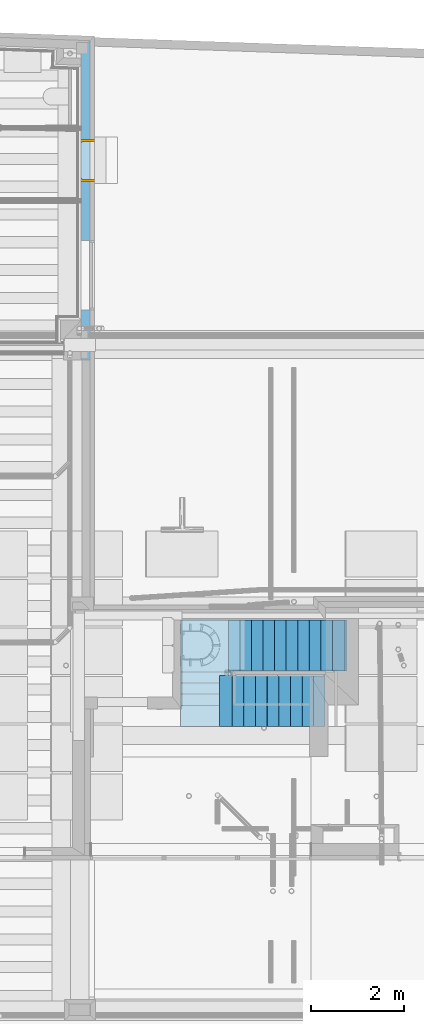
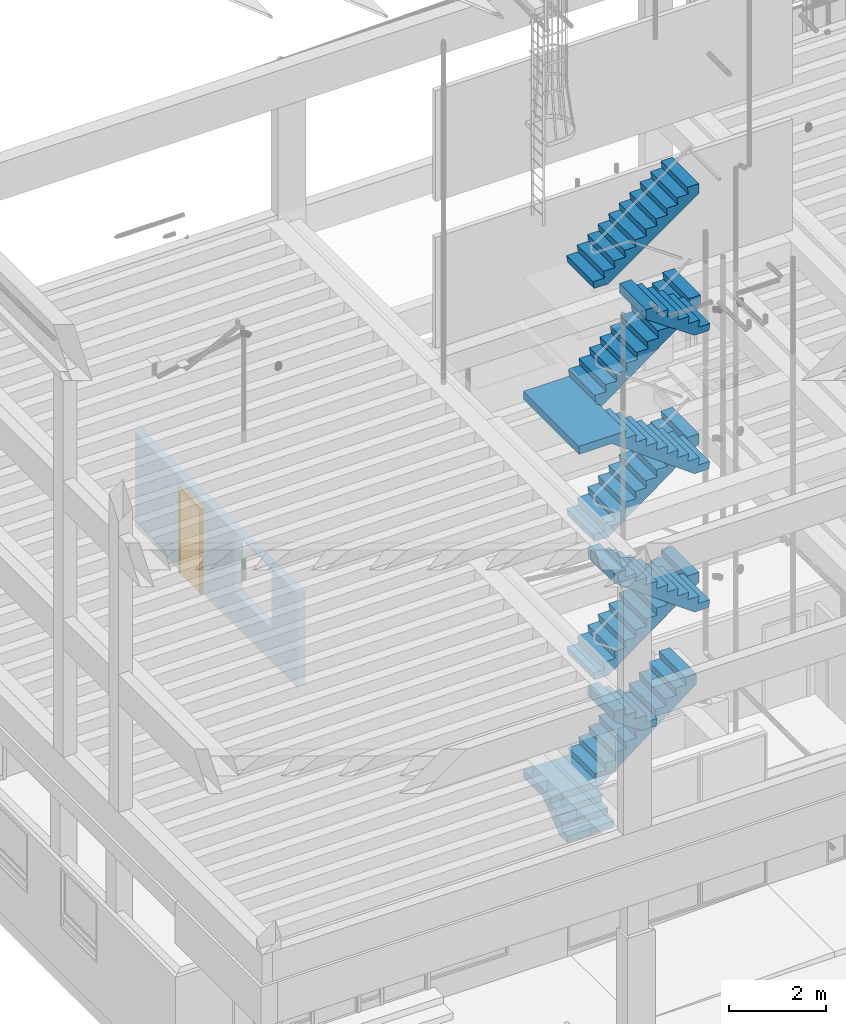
# One storey, part 25 of 106: 8 stairs, 1 door, 2 openings, plus 1 element that does not belong to this part.
"""IFC2X3 building model written with IfcOpenShell, lengths in metres."""

from ifc_helpers import new_model, entity, si_unit, converted_unit, derived_unit, money_unit, direction, frame, frame_2d, origin_with_axes, place, context, subcontext, project, spatial, polyline, rectangle, outline, extrude, faceted_brep, material, layer, layer_set, layer_usage, type_object, element, fill, save


model = new_model("IFC2X3")

# Units and contexts
model_context = context("Model", 3, precision=1e-05, world=origin_with_axes(), true_north=direction((0.0, 1.0)))
body_context = subcontext(model_context, "Body", "Model", "MODEL_VIEW", scale=1.0)
ifc_project = project(units=[si_unit("LENGTHUNIT", "METRE"), si_unit("AREAUNIT", "SQUARE_METRE"), si_unit("VOLUMEUNIT", "CUBIC_METRE"), si_unit("ABSORBEDDOSEUNIT", "GRAY"), si_unit("AMOUNTOFSUBSTANCEUNIT", "MOLE"), si_unit("DOSEEQUIVALENTUNIT", "SIEVERT"), si_unit("ELECTRICCAPACITANCEUNIT", "FARAD"), si_unit("ELECTRICCHARGEUNIT", "COULOMB"), si_unit("ELECTRICCONDUCTANCEUNIT", "SIEMENS"), si_unit("ELECTRICCURRENTUNIT", "AMPERE"), si_unit("ELECTRICRESISTANCEUNIT", "OHM"), si_unit("ELECTRICVOLTAGEUNIT", "VOLT"), si_unit("ENERGYUNIT", "JOULE"), si_unit("FORCEUNIT", "NEWTON"), si_unit("FREQUENCYUNIT", "HERTZ"), si_unit("ILLUMINANCEUNIT", "LUX"), si_unit("INDUCTANCEUNIT", "HENRY"), si_unit("LUMINOUSFLUXUNIT", "LUMEN"), si_unit("LUMINOUSINTENSITYUNIT", "CANDELA"), si_unit("MAGNETICFLUXDENSITYUNIT", "TESLA"), si_unit("MAGNETICFLUXUNIT", "WEBER"), si_unit("MASSUNIT", "GRAM"), converted_unit("PLANEANGLEUNIT", "degree", entity("IfcReal", 0.0174532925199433), si_unit("PLANEANGLEUNIT", "RADIAN"), dimensions=[0, 0, 0, 0, 0, 0, 0]), si_unit("POWERUNIT", "WATT"), si_unit("PRESSUREUNIT", "PASCAL"), si_unit("RADIOACTIVITYUNIT", "BECQUEREL"), si_unit("SOLIDANGLEUNIT", "STERADIAN"), si_unit("THERMODYNAMICTEMPERATUREUNIT", "KELVIN"), si_unit("TIMEUNIT", "SECOND"), derived_unit("ACCELERATIONUNIT", [(si_unit("LENGTHUNIT", "METRE"), 1), (si_unit("TIMEUNIT", "SECOND"), -2)]), derived_unit("ANGULARVELOCITYUNIT", [(converted_unit("PLANEANGLEUNIT", "degree", entity("IfcReal", 0.0174532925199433), si_unit("PLANEANGLEUNIT", "RADIAN"), dimensions=[0, 0, 0, 0, 0, 0, 0]), 1), (si_unit("TIMEUNIT", "SECOND"), -1)]), derived_unit("CURVATUREUNIT", [(converted_unit("PLANEANGLEUNIT", "degree", entity("IfcReal", 0.0174532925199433), si_unit("PLANEANGLEUNIT", "RADIAN"), dimensions=[0, 0, 0, 0, 0, 0, 0]), 1), (si_unit("LENGTHUNIT", "METRE"), -1)]), derived_unit("DYNAMICVISCOSITYUNIT", [(si_unit("PRESSUREUNIT", "PASCAL"), 1), (si_unit("TIMEUNIT", "SECOND"), 1)]), derived_unit("HEATFLUXDENSITYUNIT", [(si_unit("POWERUNIT", "WATT"), 1), (si_unit("LENGTHUNIT", "METRE"), -2)]), derived_unit("HEATINGVALUEUNIT", [(si_unit("ENERGYUNIT", "JOULE"), 1), (si_unit("MASSUNIT", "GRAM"), -1)]), derived_unit("INTEGERCOUNTRATEUNIT", [(si_unit("TIMEUNIT", "SECOND"), -1)]), derived_unit("IONCONCENTRATIONUNIT", [(si_unit("MASSUNIT", "GRAM"), 1), (si_unit("VOLUMEUNIT", "CUBIC_METRE"), -1)]), derived_unit("ISOTHERMALMOISTURECAPACITYUNIT", [(si_unit("VOLUMEUNIT", "CUBIC_METRE"), 1), (si_unit("MASSUNIT", "GRAM"), -1)]), derived_unit("KINEMATICVISCOSITYUNIT", [(si_unit("AREAUNIT", "SQUARE_METRE"), 1), (si_unit("TIMEUNIT", "SECOND"), -1)]), derived_unit("LINEARFORCEUNIT", [(si_unit("FORCEUNIT", "NEWTON"), 1), (si_unit("LENGTHUNIT", "METRE"), -1)]), derived_unit("LINEARMOMENTUNIT", [(si_unit("FORCEUNIT", "NEWTON"), 1), (si_unit("LENGTHUNIT", "METRE"), -1)]), derived_unit("LINEARSTIFFNESSUNIT", [(si_unit("FORCEUNIT", "NEWTON"), 1), (si_unit("LENGTHUNIT", "METRE"), -1)]), derived_unit("LINEARVELOCITYUNIT", [(si_unit("LENGTHUNIT", "METRE"), 1), (si_unit("TIMEUNIT", "SECOND"), -1)]), derived_unit("LUMINOUSINTENSITYDISTRIBUTIONUNIT", [(si_unit("LUMINOUSINTENSITYUNIT", "CANDELA"), 1), (si_unit("LUMINOUSFLUXUNIT", "LUMEN"), -1)]), derived_unit("MASSDENSITYUNIT", [(si_unit("MASSUNIT", "GRAM"), 1), (si_unit("VOLUMEUNIT", "CUBIC_METRE"), -1)]), derived_unit("MASSFLOWRATEUNIT", [(si_unit("MASSUNIT", "GRAM"), 1), (si_unit("TIMEUNIT", "SECOND"), -1)]), derived_unit("MASSPERLENGTHUNIT", [(si_unit("MASSUNIT", "GRAM"), 1), (si_unit("LENGTHUNIT", "METRE"), -1)]), derived_unit("MODULUSOFELASTICITYUNIT", [(si_unit("FORCEUNIT", "NEWTON"), 1), (si_unit("AREAUNIT", "SQUARE_METRE"), -1)]), derived_unit("MODULUSOFLINEARSUBGRADEREACTIONUNIT", [(si_unit("FORCEUNIT", "NEWTON"), 1), (si_unit("LENGTHUNIT", "METRE"), -2)]), derived_unit("MODULUSOFROTATIONALSUBGRADEREACTIONUNIT", [(si_unit("FORCEUNIT", "NEWTON"), 1), (si_unit("LENGTHUNIT", "METRE"), 1)]), derived_unit("MODULUSOFSUBGRADEREACTIONUNIT", [(si_unit("FORCEUNIT", "NEWTON"), 1), (si_unit("VOLUMEUNIT", "CUBIC_METRE"), -1)]), derived_unit("MOISTUREDIFFUSIVITYUNIT", [(si_unit("VOLUMEUNIT", "CUBIC_METRE"), 1), (si_unit("TIMEUNIT", "SECOND"), -1)]), derived_unit("MOLECULARWEIGHTUNIT", [(si_unit("MASSUNIT", "GRAM"), 1), (si_unit("AMOUNTOFSUBSTANCEUNIT", "MOLE"), -1)]), derived_unit("PLANARFORCEUNIT", [(si_unit("FORCEUNIT", "NEWTON"), 1), (si_unit("LENGTHUNIT", "METRE"), -2)]), derived_unit("ROTATIONALFREQUENCYUNIT", [(si_unit("TIMEUNIT", "SECOND"), -1)]), derived_unit("ROTATIONALMASSUNIT", [(si_unit("MASSUNIT", "GRAM"), 1), (si_unit("LENGTHUNIT", "METRE"), 2)]), derived_unit("ROTATIONALSTIFFNESSUNIT", [(si_unit("FORCEUNIT", "NEWTON"), 1), (si_unit("LENGTHUNIT", "METRE"), 1), (converted_unit("PLANEANGLEUNIT", "degree", entity("IfcReal", 0.0174532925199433), si_unit("PLANEANGLEUNIT", "RADIAN"), dimensions=[0, 0, 0, 0, 0, 0, 0]), -1)]), derived_unit("SECTIONAREAINTEGRALUNIT", [(si_unit("LENGTHUNIT", "METRE"), 5)]), derived_unit("SECTIONMODULUSUNIT", [(si_unit("LENGTHUNIT", "METRE"), 3)]), derived_unit("SHEARMODULUSUNIT", [(si_unit("FORCEUNIT", "NEWTON"), 1), (si_unit("AREAUNIT", "SQUARE_METRE"), -1)]), derived_unit("SOUNDPOWERUNIT", [(si_unit("ENERGYUNIT", "JOULE"), 1), (si_unit("TIMEUNIT", "SECOND"), -1)]), derived_unit("SPECIFICHEATCAPACITYUNIT", [(si_unit("FORCEUNIT", "NEWTON"), 1), (si_unit("MASSUNIT", "GRAM"), -1), (si_unit("THERMODYNAMICTEMPERATUREUNIT", "KELVIN"), -1)]), derived_unit("TEMPERATUREGRADIENTUNIT", [(si_unit("THERMODYNAMICTEMPERATUREUNIT", "KELVIN"), 1), (si_unit("LENGTHUNIT", "METRE"), -1)]), derived_unit("THERMALADMITTANCEUNIT", [(si_unit("POWERUNIT", "WATT"), 1), (si_unit("AREAUNIT", "SQUARE_METRE"), -1), (si_unit("THERMODYNAMICTEMPERATUREUNIT", "KELVIN"), -1)]), derived_unit("THERMALCONDUCTANCEUNIT", [(si_unit("POWERUNIT", "WATT"), 1), (si_unit("LENGTHUNIT", "METRE"), -1), (si_unit("THERMODYNAMICTEMPERATUREUNIT", "KELVIN"), -1)]), derived_unit("THERMALEXPANSIONCOEFFICIENTUNIT", [(si_unit("THERMODYNAMICTEMPERATUREUNIT", "KELVIN"), -1)]), derived_unit("THERMALRESISTANCEUNIT", [(si_unit("AREAUNIT", "SQUARE_METRE"), 1), (si_unit("POWERUNIT", "WATT"), -1)]), derived_unit("THERMALTRANSMITTANCEUNIT", [(si_unit("POWERUNIT", "WATT"), 1), (si_unit("AREAUNIT", "SQUARE_METRE"), -1), (si_unit("THERMODYNAMICTEMPERATUREUNIT", "KELVIN"), -1)]), derived_unit("TORQUEUNIT", [(si_unit("FORCEUNIT", "NEWTON"), 1), (si_unit("LENGTHUNIT", "METRE"), 1)]), derived_unit("VAPORPERMEABILITYUNIT", [(si_unit("MASSUNIT", "GRAM"), 1), (si_unit("TIMEUNIT", "SECOND"), -1)]), derived_unit("VOLUMETRICFLOWRATEUNIT", [(si_unit("VOLUMEUNIT", "CUBIC_METRE"), 1), (si_unit("TIMEUNIT", "SECOND"), -1)]), derived_unit("WARPINGCONSTANTUNIT", [(si_unit("LENGTHUNIT", "METRE"), 6)]), derived_unit("WARPINGMOMENTUNIT", [(si_unit("FORCEUNIT", "NEWTON"), 1), (si_unit("LENGTHUNIT", "METRE"), 2)]), money_unit("GBP")], contexts=[model_context])

# Site, building, storey
site_placement = place(None, origin_with_axes())
site = spatial("IfcSite", under=ifc_project, at=site_placement, Name="Site", CompositionType="ELEMENT")
building_placement = place(site_placement, origin_with_axes())
building = spatial("IfcBuilding", under=site, at=building_placement, Name="Building01", CompositionType="ELEMENT")
storey_placement = place(building_placement, origin_with_axes())
storey = spatial("IfcBuildingStorey", under=building, at=storey_placement, Name="GF", CompositionType="ELEMENT", Elevation=0.0)

# Wall, openings
ifc_material_1 = material(Name="A_BSUK_WallsExternal_Block")
ifc_layer = layer(ifc_material_1, 0.189, ventilated=False)
ifc_layer_set = layer_set([ifc_layer])
ifc_layer_usage = layer_usage(ifc_layer_set, "AXIS2", "POSITIVE", 0.0)
wall_type = type_object("IfcWallType", Name="A-Walls-ExternalBlock", PredefinedType="NOTDEFINED")
wall_placement = place(storey_placement, frame((9.343265, 14.271539, 0.148), z_axis=(0.0, 0.0, 1.0), x_axis=(0.0, 1.0, 0.0)))
wall = element("IfcWallStandardCase", 1, at=wall_placement, inside=storey, type_object=wall_type, material=ifc_layer_usage, Name="A-Walls-ExternalBlock", ObjectType="A-Walls-ExternalBlock", context=body_context, shape_type="SweptSolid", body=[
    extrude(outline(polyline([(6.714401, 0.189), (0.0, 0.189), (0.0, 0.0), (6.894519, 0.0), (6.714401, 0.189)])), origin_with_axes(), (0.0, 0.0, 1.0), 2.387),
])
opening_1_placement = place(wall_placement, frame((1.073273, 0.0, 0.85), z_axis=(0.0, 0.0, 1.0), x_axis=(1.0, 0.0, 0.0)))
element("IfcOpeningElement", 2, at=opening_1_placement, cuts=wall, Name="Opening", ObjectType="Opening", context=body_context, shape_type="SweptSolid", body=[
    extrude(rectangle(XDim=1.5, YDim=1.5, at=frame_2d((-0.75, 0.75), x_axis=(1.0, 0.0))), frame((0.0, 0.0, 0.0), z_axis=(0.0, 1.0, 0.0), x_axis=(-1.0, 0.0, 0.0)), (0.0, 0.0, 1.0), 0.189),
])
opening_2_placement = place(wall_placement, frame((3.852568, 0.0, 0.05), z_axis=(0.0, 0.0, 1.0), x_axis=(1.0, 0.0, 0.0)))
opening_2 = element("IfcOpeningElement", 3, at=opening_2_placement, cuts=wall, Name="Opening", ObjectType="Opening", context=body_context, shape_type="SweptSolid", body=[
    extrude(rectangle(XDim=2.142, YDim=0.909, at=frame_2d((-0.4545, 1.071), x_axis=(0.0, -1.0))), frame((0.0, 0.0, 0.0), z_axis=(0.0, 1.0, 0.0), x_axis=(-1.0, 0.0, 0.0)), (0.0, 0.0, 1.0), 0.189),
])

# Space
space_placement = place(storey_placement, frame((8.552822, 20.936203, 0.217025), z_axis=(0.0, 0.0, 1.0), x_axis=(-0.99931258, 0.03707243, 0.0)))
space = spatial("IfcSpace", under=storey, at=space_placement, Name="01", CompositionType="ELEMENT", InteriorOrExteriorSpace="NOTDEFINED")

# Door
ifc_material_2 = material(Name="A_BSUK_Doors")
door_style = type_object("IfcDoorStyle", Name="A-Doors-SingleFlush", ConstructionType="USERDEFINED", OperationType="SINGLE_SWING_LEFT", ParameterTakesPrecedence=False, Sizeable=False)
door_placement = place(opening_2_placement, frame((0.042, 0.259849, 0.0), z_axis=(0.0, 0.0, 1.0), x_axis=(1.0, 0.0, 0.0)))
door = element("IfcDoor", 4, at=door_placement, inside=space, type_object=door_style, material=ifc_material_2, Name="0.08", ObjectType="A-Doors-SingleFlush", OverallHeight=2.142, OverallWidth=0.909, context=body_context, shape_type="Brep", body=[
    faceted_brep([(0.0, -0.379, 2.1), (0.825, -0.379, 2.1), (0.825, -0.379, 0.0), (0.894, -0.379, 0.0), (0.894, -0.379, 2.169), (-0.069, -0.379, 2.169), (-0.069, -0.379, 0.0), (0.0, -0.379, 0.0), (0.894, -0.36, 2.169), (0.894, -0.36, 0.0), (-0.069, -0.36, 0.0), (-0.069, -0.36, 2.169), (-0.042, -0.36, 0.0), (-0.042, 0.0, 0.0), (-0.069, 0.0, 0.0), (-0.069, 0.019, 0.0), (0.0, 0.019, 0.0), (0.0, 0.019, 2.1), (0.825, 0.019, 2.1), (-0.069, 0.019, 2.169), (0.894, 0.019, 2.169), (0.894, 0.019, 0.0), (0.825, 0.019, 0.0), (-0.069, 0.0, 2.169), (-0.042, 0.0, 2.142), (-0.042, -0.36, 2.142), (0.867, 0.0, 2.142), (0.867, -0.36, 2.142), (0.867, -0.36, 0.0), (0.867, 0.0, 0.0), (0.894, 0.0, 0.0), (0.894, 0.0, 2.169)], [[[0, 1, 2, 3, 4, 5, 6, 7]], [[8, 4, 3, 9]], [[10, 6, 5, 11]], [[11, 5, 4, 8]], [[7, 6, 10, 12, 13, 14, 15, 16]], [[7, 16, 17, 0]], [[0, 17, 18, 1]], [[17, 16, 15, 19, 20, 21, 22, 18]], [[1, 18, 22, 2]], [[14, 23, 19, 15]], [[24, 13, 12, 25]], [[26, 24, 25, 27]], [[11, 8, 9, 28, 27, 25, 12, 10]], [[27, 28, 29, 26]], [[26, 29, 30, 31, 23, 14, 13, 24]], [[22, 21, 30, 29, 28, 9, 3, 2]], [[30, 21, 20, 31]], [[31, 20, 19, 23]]]),
    faceted_brep([(0.825, -0.09, 0.0), (0.825, -0.04, 0.0), (0.825, -0.04, 2.1), (0.825, -0.09, 2.1), (0.025, -0.09, 2.075), (0.8, -0.09, 2.075), (0.8, -0.09, 0.0), (0.0, -0.09, 2.1), (0.0, -0.09, 0.0), (0.025, -0.09, 0.0), (0.0, -0.04, 0.0), (0.025, -0.04, 0.0), (0.0, -0.04, 2.1), (0.025, -0.04, 2.075), (0.8, -0.04, 0.0), (0.8, -0.04, 2.075)], [[[0, 1, 2, 3]], [[4, 5, 6, 0, 3, 7, 8, 9]], [[9, 8, 10, 11]], [[3, 2, 12, 7]], [[7, 12, 10, 8]], [[13, 11, 10, 12, 2, 1, 14, 15]], [[5, 15, 14, 6]], [[14, 1, 0, 6]], [[9, 11, 13, 4]], [[4, 13, 15, 5]]]),
    faceted_brep([(0.0, -0.04, 2.1), (0.0, 0.0, 2.1), (0.0, 0.0, 0.0), (0.0, -0.04, 0.0), (0.825, -0.04, 0.0), (0.825, 0.0, 0.0), (0.825, 0.0, 2.1), (0.825, -0.04, 2.1)], [[[0, 1, 2, 3]], [[4, 5, 6, 7]], [[3, 2, 5, 4]], [[3, 4, 7, 0]], [[7, 6, 1, 0]], [[1, 6, 5, 2]]]),
])

fill(opening_2, door)

# Stairs
ifc_material_3 = material(Name="S_BSUK_Stairs")
stair_1_placement = place(storey_placement, frame((14.405859, 6.35, 12.13), z_axis=(0.0, 0.0, 1.0), x_axis=(1.0, 0.0, 0.0)))
element("IfcStair", 5, at=stair_1_placement, inside=storey, material=ifc_material_3, Name="S-Stairs-ConcreteRC", ObjectType="S-Stairs-ConcreteRC", ShapeType="NOTDEFINED", context=body_context, shape_type="Brep", body=[
    faceted_brep([(0.0, 1.1, 0.0), (-0.348759, 1.1, 0.0), (-1.5, 1.1, 0.805869), (-1.5, 1.1, 1.05), (-1.225, 1.1, 1.05), (-1.25, 1.1, 0.875), (-0.975, 1.1, 0.875), (-1.0, 1.1, 0.7), (-0.725, 1.1, 0.7), (-0.75, 1.1, 0.525), (-0.475, 1.1, 0.525), (-0.5, 1.1, 0.35), (-0.225, 1.1, 0.35), (-0.25, 1.1, 0.175), (0.025, 1.1, 0.175), (0.0, 0.0, 0.0), (-0.348759, 0.0, 0.0), (-1.5, 0.0, 0.805869), (-1.5, 0.0, 1.05), (-1.225, 0.0, 1.05), (-1.25, 0.0, 0.875), (-0.975, 0.0, 0.875), (-1.0, 0.0, 0.7), (-0.725, 0.0, 0.7), (-0.75, 0.0, 0.525), (-0.475, 0.0, 0.525), (-0.5, 0.0, 0.35), (-0.225, 0.0, 0.35), (-0.25, 0.0, 0.175), (0.025, 0.0, 0.175)], [[[0, 1, 2, 3, 4, 5, 6, 7, 8, 9, 10, 11, 12, 13, 14]], [[15, 16, 1, 0]], [[16, 17, 2, 1]], [[17, 18, 3, 2]], [[18, 19, 4, 3]], [[19, 20, 5, 4]], [[20, 21, 6, 5]], [[21, 22, 7, 6]], [[22, 23, 8, 7]], [[23, 24, 9, 8]], [[24, 25, 10, 9]], [[25, 26, 11, 10]], [[26, 27, 12, 11]], [[27, 28, 13, 12]], [[28, 29, 14, 13]], [[29, 15, 0, 14]], [[15, 29, 28, 27, 26, 25, 24, 23, 22, 21, 20, 19, 18, 17, 16]]]),
])
stair_2_placement = place(storey_placement, frame((11.3, 6.83, 0.0), z_axis=(0.0, 0.0, 1.0), x_axis=(1.0, 0.0, 0.0)))
element("IfcStair", 6, at=stair_2_placement, inside=storey, material=ifc_material_3, Name="S-Stairs-ConcreteRC", ObjectType="S-Stairs-ConcreteRC", ShapeType="NOTDEFINED", context=body_context, shape_type="Brep", body=[
    faceted_brep([(1.1, 0.0, 0.0), (1.1, 0.326806, 0.0), (1.1, 1.028345, 0.542857), (1.1, 0.72, 0.542857), (1.1, 0.72, 0.742857), (1.1, 0.695, 0.742857), (1.1, 0.72, 0.557143), (1.1, 0.455, 0.557143), (1.1, 0.48, 0.371429), (1.1, 0.215, 0.371429), (1.1, 0.24, 0.185714), (1.1, -0.025, 0.185714), (0.0, 0.0, 0.0), (0.0, 0.326806, 0.0), (0.0, 1.028345, 0.542857), (0.0, 0.72, 0.542857), (0.0, 0.72, 0.742857), (0.0, 0.695, 0.742857), (0.0, 0.72, 0.557143), (0.0, 0.455, 0.557143), (0.0, 0.48, 0.371429), (0.0, 0.215, 0.371429), (0.0, 0.24, 0.185714), (0.0, -0.025, 0.185714)], [[[0, 1, 2, 3, 4, 5, 6, 7, 8, 9, 10, 11]], [[12, 13, 1, 0]], [[13, 14, 2, 1]], [[14, 15, 3, 2]], [[15, 16, 4, 3]], [[16, 17, 5, 4]], [[17, 18, 6, 5]], [[18, 19, 7, 6]], [[19, 20, 8, 7]], [[20, 21, 9, 8]], [[21, 22, 10, 9]], [[22, 23, 11, 10]], [[23, 12, 0, 11]], [[12, 23, 22, 21, 20, 19, 18, 17, 16, 15, 14, 13]]]),
    faceted_brep([(1.1, 0.72, 0.742857), (1.1, 0.72, 0.542857), (1.168345, 0.72, 0.542857), (3.5, 0.72, 2.347114), (3.5, 0.72, 2.6), (3.235, 0.72, 2.6), (3.26, 0.72, 2.414286), (2.995, 0.72, 2.414286), (3.02, 0.72, 2.228571), (2.755, 0.72, 2.228571), (2.78, 0.72, 2.042857), (2.515, 0.72, 2.042857), (2.54, 0.72, 1.857143), (2.275, 0.72, 1.857143), (2.3, 0.72, 1.671429), (2.035, 0.72, 1.671429), (2.06, 0.72, 1.485714), (1.795, 0.72, 1.485714), (1.82, 0.72, 1.3), (1.555, 0.72, 1.3), (1.58, 0.72, 1.114286), (1.315, 0.72, 1.114286), (1.34, 0.72, 0.928571), (1.075, 0.72, 0.928571), (1.1, 1.82, 0.742857), (1.1, 1.82, 0.542857), (1.168345, 1.82, 0.542857), (3.5, 1.82, 2.347114), (3.5, 1.82, 2.6), (3.235, 1.82, 2.6), (3.26, 1.82, 2.414286), (2.995, 1.82, 2.414286), (3.02, 1.82, 2.228571), (2.755, 1.82, 2.228571), (2.78, 1.82, 2.042857), (2.515, 1.82, 2.042857), (2.54, 1.82, 1.857143), (2.275, 1.82, 1.857143), (2.3, 1.82, 1.671429), (2.035, 1.82, 1.671429), (2.06, 1.82, 1.485714), (1.795, 1.82, 1.485714), (1.82, 1.82, 1.3), (1.555, 1.82, 1.3), (1.58, 1.82, 1.114286), (1.315, 1.82, 1.114286), (1.34, 1.82, 0.928571), (1.075, 1.82, 0.928571)], [[[0, 1, 2, 3, 4, 5, 6, 7, 8, 9, 10, 11, 12, 13, 14, 15, 16, 17, 18, 19, 20, 21, 22, 23]], [[24, 25, 1, 0]], [[25, 26, 2, 1]], [[26, 27, 3, 2]], [[27, 28, 4, 3]], [[28, 29, 5, 4]], [[29, 30, 6, 5]], [[30, 31, 7, 6]], [[31, 32, 8, 7]], [[32, 33, 9, 8]], [[33, 34, 10, 9]], [[34, 35, 11, 10]], [[35, 36, 12, 11]], [[36, 37, 13, 12]], [[37, 38, 14, 13]], [[38, 39, 15, 14]], [[39, 40, 16, 15]], [[40, 41, 17, 16]], [[41, 42, 18, 17]], [[42, 43, 19, 18]], [[43, 44, 20, 19]], [[44, 45, 21, 20]], [[45, 46, 22, 21]], [[46, 47, 23, 22]], [[47, 24, 0, 23]], [[24, 47, 46, 45, 44, 43, 42, 41, 40, 39, 38, 37, 36, 35, 34, 33, 32, 31, 30, 29, 28, 27, 26, 25]]]),
    faceted_brep([(0.0, 0.72, 0.542857), (0.0, 1.82, 0.542857), (1.1, 1.82, 0.542857), (1.1, 0.72, 0.542857), (0.0, 0.72, 0.742857), (0.0, 1.82, 0.742857), (1.1, 1.82, 0.742857), (1.1, 0.72, 0.742857)], [[[0, 1, 2, 3]], [[4, 5, 1, 0]], [[5, 6, 2, 1]], [[6, 7, 3, 2]], [[7, 4, 0, 3]], [[4, 7, 6, 5]]]),
])
stair_3_placement = place(storey_placement, frame((14.397098, 6.35, 5.15), z_axis=(0.0, 0.0, 1.0), x_axis=(0.99999987, 0.00051581, 0.0)))
element("IfcStair", 7, at=stair_3_placement, inside=storey, material=ifc_material_3, Name="S-Stairs-ConcreteRC", ObjectType="S-Stairs-ConcreteRC", ShapeType="NOTDEFINED", context=body_context, shape_type="Brep", body=[
    faceted_brep([(-2.249432, 1.10116, 1.39251), (-2.249432, 1.10116, 1.64), (-1.974432, 1.101019, 1.64), (-1.999432, 1.101031, 1.457778), (-1.724432, 1.10089, 1.457778), (-1.749432, 1.100903, 1.275556), (-1.474432, 1.100761, 1.275556), (-1.499432, 1.100774, 1.093333), (-1.224432, 1.100632, 1.093333), (-1.249432, 1.100645, 0.911111), (-0.974432, 1.100503, 0.911111), (-0.999432, 1.100516, 0.728889), (-0.724433, 1.100374, 0.728889), (-0.749433, 1.100387, 0.546667), (-0.474433, 1.100245, 0.546667), (-0.499433, 1.100258, 0.364444), (-0.224433, 1.100116, 0.364444), (-0.249433, 1.100129, 0.182222), (0.025567, 1.099987, 0.182222), (0.000567, 1.1, 0.0), (-0.338976, 1.100175, 0.0), (-2.25, 0.001161, 1.39251), (-2.25, 0.001161, 1.64), (-1.975, 0.001019, 1.64), (-2.0, 0.001032, 1.457778), (-1.725, 0.00089, 1.457778), (-1.75, 0.000903, 1.275556), (-1.475, 0.000761, 1.275556), (-1.5, 0.000774, 1.093333), (-1.225, 0.000632, 1.093333), (-1.25, 0.000645, 0.911111), (-0.975, 0.000503, 0.911111), (-1.0, 0.000516, 0.728889), (-0.725, 0.000374, 0.728889), (-0.75, 0.000387, 0.546667), (-0.475, 0.000245, 0.546667), (-0.5, 0.000258, 0.364444), (-0.225, 0.000116, 0.364444), (-0.25, 0.000129, 0.182222), (0.025, -1.3e-05, 0.182222), (0.0, 0.0, 0.0), (-0.339544, 0.000175, 0.0)], [[[0, 1, 2, 3, 4, 5, 6, 7, 8, 9, 10, 11, 12, 13, 14, 15, 16, 17, 18, 19, 20]], [[21, 22, 1, 0]], [[22, 23, 2, 1]], [[23, 24, 3, 2]], [[24, 25, 4, 3]], [[25, 26, 5, 4]], [[26, 27, 6, 5]], [[27, 28, 7, 6]], [[28, 29, 8, 7]], [[29, 30, 9, 8]], [[30, 31, 10, 9]], [[31, 32, 11, 10]], [[32, 33, 12, 11]], [[33, 34, 13, 12]], [[34, 35, 14, 13]], [[35, 36, 15, 14]], [[36, 37, 16, 15]], [[37, 38, 17, 16]], [[38, 39, 18, 17]], [[39, 40, 19, 18]], [[40, 41, 20, 19]], [[41, 21, 0, 20]], [[21, 41, 40, 39, 38, 37, 36, 35, 34, 33, 32, 31, 30, 29, 28, 27, 26, 25, 24, 23, 22]]]),
])
stair_4_placement = place(storey_placement, frame((12.359584, 8.65, 6.79), z_axis=(0.0, 0.0, 1.0), x_axis=(1.0, 0.0, 0.0)))
element("IfcStair", 8, at=stair_4_placement, inside=storey, material=ifc_material_3, Name="S-Stairs-ConcreteRC", ObjectType="S-Stairs-ConcreteRC", ShapeType="NOTDEFINED", context=body_context, shape_type="Brep", body=[
    faceted_brep([(0.0, -1.1, 0.0), (0.336223, -1.1, 0.0), (2.5, -1.1, 1.601195), (2.5, -1.1, 1.85), (2.225, -1.1, 1.85), (2.25, -1.1, 1.665), (1.975, -1.1, 1.665), (2.0, -1.1, 1.48), (1.725, -1.1, 1.48), (1.75, -1.1, 1.295), (1.475, -1.1, 1.295), (1.5, -1.1, 1.11), (1.225, -1.1, 1.11), (1.25, -1.1, 0.925), (0.975, -1.1, 0.925), (1.0, -1.1, 0.74), (0.725, -1.1, 0.74), (0.75, -1.1, 0.555), (0.475, -1.1, 0.555), (0.5, -1.1, 0.37), (0.225, -1.1, 0.37), (0.25, -1.1, 0.185), (-0.025, -1.1, 0.185), (0.0, 0.0, 0.0), (0.336223, 0.0, 0.0), (2.5, 0.0, 1.601195), (2.5, 0.0, 1.85), (2.225, 0.0, 1.85), (2.25, 0.0, 1.665), (1.975, 0.0, 1.665), (2.0, 0.0, 1.48), (1.725, 0.0, 1.48), (1.75, 0.0, 1.295), (1.475, 0.0, 1.295), (1.5, 0.0, 1.11), (1.225, 0.0, 1.11), (1.25, 0.0, 0.925), (0.975, 0.0, 0.925), (1.0, 0.0, 0.74), (0.725, 0.0, 0.74), (0.75, 0.0, 0.555), (0.475, 0.0, 0.555), (0.5, 0.0, 0.37), (0.225, 0.0, 0.37), (0.25, 0.0, 0.185), (-0.025, 0.0, 0.185)], [[[0, 1, 2, 3, 4, 5, 6, 7, 8, 9, 10, 11, 12, 13, 14, 15, 16, 17, 18, 19, 20, 21, 22]], [[23, 24, 1, 0]], [[24, 25, 2, 1]], [[25, 26, 3, 2]], [[26, 27, 4, 3]], [[27, 28, 5, 4]], [[28, 29, 6, 5]], [[29, 30, 7, 6]], [[30, 31, 8, 7]], [[31, 32, 9, 8]], [[32, 33, 10, 9]], [[33, 34, 11, 10]], [[34, 35, 12, 11]], [[35, 36, 13, 12]], [[36, 37, 14, 13]], [[37, 38, 15, 14]], [[38, 39, 16, 15]], [[39, 40, 17, 16]], [[40, 41, 18, 17]], [[41, 42, 19, 18]], [[42, 43, 20, 19]], [[43, 44, 21, 20]], [[44, 45, 22, 21]], [[45, 23, 0, 22]], [[23, 45, 44, 43, 42, 41, 40, 39, 38, 37, 36, 35, 34, 33, 32, 31, 30, 29, 28, 27, 26, 25, 24]]]),
])
stair_5_placement = place(storey_placement, frame((14.397097, 6.35, 8.64), z_axis=(0.0, 0.0, 1.0), x_axis=(1.0, 0.0, 0.0)))
element("IfcStair", 9, at=stair_5_placement, inside=storey, material=ifc_material_3, Name="S-Stairs-ConcreteRC", ObjectType="S-Stairs-ConcreteRC", ShapeType="NOTDEFINED", context=body_context, shape_type="Brep", body=[
    faceted_brep([(0.0, 1.1, 0.0), (-0.337781, 1.1, 0.0), (-2.315575, 1.1, 1.453158), (-2.0, 1.1, 1.453158), (-2.0, 1.1, 1.653158), (-1.975, 1.1, 1.653158), (-2.0, 1.1, 1.469474), (-1.725, 1.1, 1.469474), (-1.75, 1.1, 1.285789), (-1.475, 1.1, 1.285789), (-1.5, 1.1, 1.102105), (-1.225, 1.1, 1.102105), (-1.25, 1.1, 0.918421), (-0.975, 1.1, 0.918421), (-1.0, 1.1, 0.734737), (-0.725, 1.1, 0.734737), (-0.75, 1.1, 0.551053), (-0.475, 1.1, 0.551053), (-0.5, 1.1, 0.367368), (-0.225, 1.1, 0.367368), (-0.25, 1.1, 0.183684), (0.025, 1.1, 0.183684), (0.0, 0.0, 0.0), (-0.337781, 0.0, 0.0), (-2.315575, 0.0, 1.453158), (-2.0, 0.0, 1.453158), (-2.0, 0.0, 1.653158), (-1.975, 0.0, 1.653158), (-2.0, 0.0, 1.469474), (-1.725, 0.0, 1.469474), (-1.75, 0.0, 1.285789), (-1.475, 0.0, 1.285789), (-1.5, 0.0, 1.102105), (-1.225, 0.0, 1.102105), (-1.25, 0.0, 0.918421), (-0.975, 0.0, 0.918421), (-1.0, 0.0, 0.734737), (-0.725, 0.0, 0.734737), (-0.75, 0.0, 0.551053), (-0.475, 0.0, 0.551053), (-0.5, 0.0, 0.367368), (-0.225, 0.0, 0.367368), (-0.25, 0.0, 0.183684), (0.025, 0.0, 0.183684)], [[[0, 1, 2, 3, 4, 5, 6, 7, 8, 9, 10, 11, 12, 13, 14, 15, 16, 17, 18, 19, 20, 21]], [[22, 23, 1, 0]], [[23, 24, 2, 1]], [[24, 25, 3, 2]], [[25, 26, 4, 3]], [[26, 27, 5, 4]], [[27, 28, 6, 5]], [[28, 29, 7, 6]], [[29, 30, 8, 7]], [[30, 31, 9, 8]], [[31, 32, 10, 9]], [[32, 33, 11, 10]], [[33, 34, 12, 11]], [[34, 35, 13, 12]], [[35, 36, 14, 13]], [[36, 37, 15, 14]], [[37, 38, 16, 15]], [[38, 39, 17, 16]], [[39, 40, 18, 17]], [[40, 41, 19, 18]], [[41, 42, 20, 19]], [[42, 43, 21, 20]], [[43, 22, 0, 21]], [[22, 43, 42, 41, 40, 39, 38, 37, 36, 35, 34, 33, 32, 31, 30, 29, 28, 27, 26, 25, 24, 23]]]),
    faceted_brep([(-2.0, 1.2, 1.653158), (-2.0, 1.2, 1.453158), (-1.934425, 1.2, 1.453158), (0.5, 1.2, 3.24182), (0.5, 1.2, 3.49), (0.225, 1.2, 3.49), (0.25, 1.2, 3.306316), (-0.025, 1.2, 3.306316), (0.0, 1.2, 3.122632), (-0.275, 1.2, 3.122632), (-0.25, 1.2, 2.938947), (-0.525, 1.2, 2.938947), (-0.5, 1.2, 2.755263), (-0.775, 1.2, 2.755263), (-0.75, 1.2, 2.571579), (-1.025, 1.2, 2.571579), (-1.0, 1.2, 2.387895), (-1.275, 1.2, 2.387895), (-1.25, 1.2, 2.204211), (-1.525, 1.2, 2.204211), (-1.5, 1.2, 2.020526), (-1.775, 1.2, 2.020526), (-1.75, 1.2, 1.836842), (-2.025, 1.2, 1.836842), (-2.0, 2.3, 1.653158), (-2.0, 2.3, 1.453158), (-1.934425, 2.3, 1.453158), (0.5, 2.3, 3.24182), (0.5, 2.3, 3.49), (0.225, 2.3, 3.49), (0.25, 2.3, 3.306316), (-0.025, 2.3, 3.306316), (0.0, 2.3, 3.122632), (-0.275, 2.3, 3.122632), (-0.25, 2.3, 2.938947), (-0.525, 2.3, 2.938947), (-0.5, 2.3, 2.755263), (-0.775, 2.3, 2.755263), (-0.75, 2.3, 2.571579), (-1.025, 2.3, 2.571579), (-1.0, 2.3, 2.387895), (-1.275, 2.3, 2.387895), (-1.25, 2.3, 2.204211), (-1.525, 2.3, 2.204211), (-1.5, 2.3, 2.020526), (-1.775, 2.3, 2.020526), (-1.75, 2.3, 1.836842), (-2.025, 2.3, 1.836842)], [[[0, 1, 2, 3, 4, 5, 6, 7, 8, 9, 10, 11, 12, 13, 14, 15, 16, 17, 18, 19, 20, 21, 22, 23]], [[24, 25, 1, 0]], [[25, 26, 2, 1]], [[26, 27, 3, 2]], [[27, 28, 4, 3]], [[28, 29, 5, 4]], [[29, 30, 6, 5]], [[30, 31, 7, 6]], [[31, 32, 8, 7]], [[32, 33, 9, 8]], [[33, 34, 10, 9]], [[34, 35, 11, 10]], [[35, 36, 12, 11]], [[36, 37, 13, 12]], [[37, 38, 14, 13]], [[38, 39, 15, 14]], [[39, 40, 16, 15]], [[40, 41, 17, 16]], [[41, 42, 18, 17]], [[42, 43, 19, 18]], [[43, 44, 20, 19]], [[44, 45, 21, 20]], [[45, 46, 22, 21]], [[46, 47, 23, 22]], [[47, 24, 0, 23]], [[24, 47, 46, 45, 44, 43, 42, 41, 40, 39, 38, 37, 36, 35, 34, 33, 32, 31, 30, 29, 28, 27, 26, 25]]]),
    faceted_brep([(-2.0, 1.1, 1.453158), (-2.0, 0.0, 1.453158), (-3.097097, 0.0, 1.453158), (-3.097097, 2.3, 1.453158), (-2.0, 2.3, 1.453158), (-2.0, 1.2, 1.453158), (-2.0, 1.1, 1.653158), (-2.0, 0.0, 1.653158), (-3.097097, 0.0, 1.653158), (-3.097097, 2.3, 1.653158), (-2.0, 2.3, 1.653158), (-2.0, 1.2, 1.653158)], [[[0, 1, 2, 3, 4, 5]], [[6, 7, 1, 0]], [[7, 8, 2, 1]], [[8, 9, 3, 2]], [[9, 10, 4, 3]], [[10, 11, 5, 4]], [[11, 6, 0, 5]], [[6, 11, 10, 9, 8, 7]]]),
])
stair_6_placement = place(storey_placement, frame((12.359584, 8.65, 3.3), z_axis=(0.0, 0.0, 1.0), x_axis=(1.0, 0.0, 0.0)))
element("IfcStair", 10, at=stair_6_placement, inside=storey, material=ifc_material_3, Name="S-Stairs-ConcreteRC", ObjectType="S-Stairs-ConcreteRC", ShapeType="NOTDEFINED", context=body_context, shape_type="Brep", body=[
    faceted_brep([(0.0, -1.1, 0.0), (0.336223, -1.1, 0.0), (2.5, -1.1, 1.601195), (2.5, -1.1, 1.85), (2.225, -1.1, 1.85), (2.25, -1.1, 1.665), (1.975, -1.1, 1.665), (2.0, -1.1, 1.48), (1.725, -1.1, 1.48), (1.75, -1.1, 1.295), (1.475, -1.1, 1.295), (1.5, -1.1, 1.11), (1.225, -1.1, 1.11), (1.25, -1.1, 0.925), (0.975, -1.1, 0.925), (1.0, -1.1, 0.74), (0.725, -1.1, 0.74), (0.75, -1.1, 0.555), (0.475, -1.1, 0.555), (0.5, -1.1, 0.37), (0.225, -1.1, 0.37), (0.25, -1.1, 0.185), (-0.025, -1.1, 0.185), (0.0, 0.0, 0.0), (0.336223, 0.0, 0.0), (2.5, 0.0, 1.601195), (2.5, 0.0, 1.85), (2.225, 0.0, 1.85), (2.25, 0.0, 1.665), (1.975, 0.0, 1.665), (2.0, 0.0, 1.48), (1.725, 0.0, 1.48), (1.75, 0.0, 1.295), (1.475, 0.0, 1.295), (1.5, 0.0, 1.11), (1.225, 0.0, 1.11), (1.25, 0.0, 0.925), (0.975, 0.0, 0.925), (1.0, 0.0, 0.74), (0.725, 0.0, 0.74), (0.75, 0.0, 0.555), (0.475, 0.0, 0.555), (0.5, 0.0, 0.37), (0.225, 0.0, 0.37), (0.25, 0.0, 0.185), (-0.025, 0.0, 0.185)], [[[0, 1, 2, 3, 4, 5, 6, 7, 8, 9, 10, 11, 12, 13, 14, 15, 16, 17, 18, 19, 20, 21, 22]], [[23, 24, 1, 0]], [[24, 25, 2, 1]], [[25, 26, 3, 2]], [[26, 27, 4, 3]], [[27, 28, 5, 4]], [[28, 29, 6, 5]], [[29, 30, 7, 6]], [[30, 31, 8, 7]], [[31, 32, 9, 8]], [[32, 33, 10, 9]], [[33, 34, 11, 10]], [[34, 35, 12, 11]], [[35, 36, 13, 12]], [[36, 37, 14, 13]], [[37, 38, 15, 14]], [[38, 39, 16, 15]], [[39, 40, 17, 16]], [[40, 41, 18, 17]], [[41, 42, 19, 18]], [[42, 43, 20, 19]], [[43, 44, 21, 20]], [[44, 45, 22, 21]], [[45, 23, 0, 22]], [[23, 45, 44, 43, 42, 41, 40, 39, 38, 37, 36, 35, 34, 33, 32, 31, 30, 29, 28, 27, 26, 25, 24]]]),
])
stair_7_placement = place(storey_placement, frame((13.141481, 6.35, 2.6), z_axis=(0.0, 0.0, 1.0), x_axis=(1.0, 0.0, 0.0)))
element("IfcStair", 11, at=stair_7_placement, inside=storey, material=ifc_material_3, Name="S-Stairs-ConcreteRC", ObjectType="S-Stairs-ConcreteRC", ShapeType="NOTDEFINED", context=body_context, shape_type="Brep", body=[
    faceted_brep([(0.0, 1.1, 0.0), (-0.348759, 1.1, 0.0), (-1.0, 1.1, 0.455869), (-1.0, 1.1, 0.7), (-0.725, 1.1, 0.7), (-0.75, 1.1, 0.525), (-0.475, 1.1, 0.525), (-0.5, 1.1, 0.35), (-0.225, 1.1, 0.35), (-0.25, 1.1, 0.175), (0.025, 1.1, 0.175), (0.0, 0.0, 0.0), (-0.348759, 0.0, 0.0), (-1.0, 0.0, 0.455869), (-1.0, 0.0, 0.7), (-0.725, 0.0, 0.7), (-0.75, 0.0, 0.525), (-0.475, 0.0, 0.525), (-0.5, 0.0, 0.35), (-0.225, 0.0, 0.35), (-0.25, 0.0, 0.175), (0.025, 0.0, 0.175)], [[[0, 1, 2, 3, 4, 5, 6, 7, 8, 9, 10]], [[11, 12, 1, 0]], [[12, 13, 2, 1]], [[13, 14, 3, 2]], [[14, 15, 4, 3]], [[15, 16, 5, 4]], [[16, 17, 6, 5]], [[17, 18, 7, 6]], [[18, 19, 8, 7]], [[19, 20, 9, 8]], [[20, 21, 10, 9]], [[21, 11, 0, 10]], [[11, 21, 20, 19, 18, 17, 16, 15, 14, 13, 12]]]),
])
stair_8_placement = place(storey_placement, frame((12.355, 8.65, 13.18), z_axis=(0.0, 0.0, 1.0), x_axis=(1.0, 0.0, 0.0)))
element("IfcStair", 12, at=stair_8_placement, inside=storey, material=ifc_material_3, Name="S-Stairs-ConcreteRC", ObjectType="S-Stairs-ConcreteRC", ShapeType="NOTDEFINED", context=body_context, shape_type="Brep", body=[
    faceted_brep([(0.0, -1.1, 0.0), (0.34547, -1.1, 0.0), (2.5, -1.1, 1.529716), (2.5, -1.1, 1.775), (2.225, -1.1, 1.775), (2.25, -1.1, 1.5975), (1.975, -1.1, 1.5975), (2.0, -1.1, 1.42), (1.725, -1.1, 1.42), (1.75, -1.1, 1.2425), (1.475, -1.1, 1.2425), (1.5, -1.1, 1.065), (1.225, -1.1, 1.065), (1.25, -1.1, 0.8875), (0.975, -1.1, 0.8875), (1.0, -1.1, 0.71), (0.725, -1.1, 0.71), (0.75, -1.1, 0.5325), (0.475, -1.1, 0.5325), (0.5, -1.1, 0.355), (0.225, -1.1, 0.355), (0.25, -1.1, 0.1775), (-0.025, -1.1, 0.1775), (0.0, 0.0, 0.0), (0.34547, 0.0, 0.0), (2.5, 0.0, 1.529716), (2.5, 0.0, 1.775), (2.225, 0.0, 1.775), (2.25, 0.0, 1.5975), (1.975, 0.0, 1.5975), (2.0, 0.0, 1.42), (1.725, 0.0, 1.42), (1.75, 0.0, 1.2425), (1.475, 0.0, 1.2425), (1.5, 0.0, 1.065), (1.225, 0.0, 1.065), (1.25, 0.0, 0.8875), (0.975, 0.0, 0.8875), (1.0, 0.0, 0.71), (0.725, 0.0, 0.71), (0.75, 0.0, 0.5325), (0.475, 0.0, 0.5325), (0.5, 0.0, 0.355), (0.225, 0.0, 0.355), (0.25, 0.0, 0.1775), (-0.025, 0.0, 0.1775)], [[[0, 1, 2, 3, 4, 5, 6, 7, 8, 9, 10, 11, 12, 13, 14, 15, 16, 17, 18, 19, 20, 21, 22]], [[23, 24, 1, 0]], [[24, 25, 2, 1]], [[25, 26, 3, 2]], [[26, 27, 4, 3]], [[27, 28, 5, 4]], [[28, 29, 6, 5]], [[29, 30, 7, 6]], [[30, 31, 8, 7]], [[31, 32, 9, 8]], [[32, 33, 10, 9]], [[33, 34, 11, 10]], [[34, 35, 12, 11]], [[35, 36, 13, 12]], [[36, 37, 14, 13]], [[37, 38, 15, 14]], [[38, 39, 16, 15]], [[39, 40, 17, 16]], [[40, 41, 18, 17]], [[41, 42, 19, 18]], [[42, 43, 20, 19]], [[43, 44, 21, 20]], [[44, 45, 22, 21]], [[45, 23, 0, 22]], [[23, 45, 44, 43, 42, 41, 40, 39, 38, 37, 36, 35, 34, 33, 32, 31, 30, 29, 28, 27, 26, 25, 24]]]),
])

save(model, "model.ifc")
